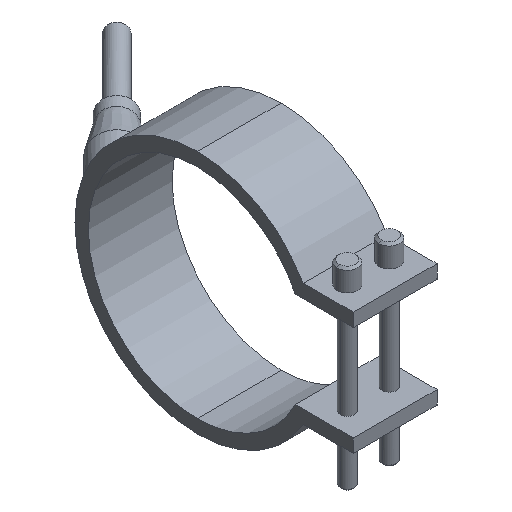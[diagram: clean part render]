
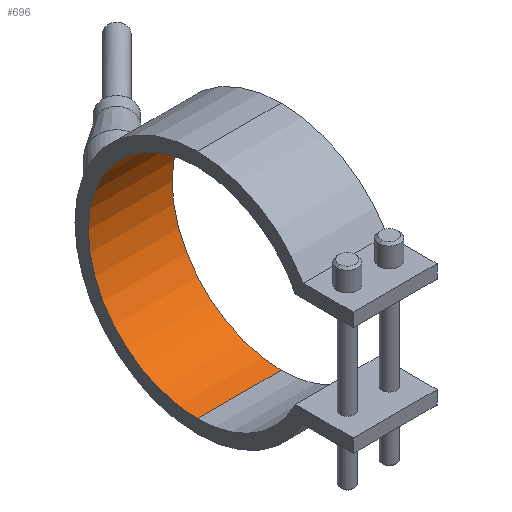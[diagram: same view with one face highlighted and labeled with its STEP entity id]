
A CAD part, isometric view. The second image highlights one B-rep face of the part: STEP entity #696.
In plain terms, the highlighted cylindrical face has radius 32.5 mm (diameter 65 mm), a partial arc.
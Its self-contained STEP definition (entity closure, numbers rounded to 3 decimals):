
#366=CARTESIAN_POINT('Vertex',(12.5,0.,32.5)) ;
#371=CARTESIAN_POINT('Axis2P3D Location',(12.5,0.,0.)) ;
#375=CARTESIAN_POINT('Vertex',(12.5,0.,-32.5)) ;
#482=CARTESIAN_POINT('Vertex',(-12.5,0.,-32.5)) ;
#485=CARTESIAN_POINT('Axis2P3D Location',(-12.5,0.,0.)) ;
#489=CARTESIAN_POINT('Vertex',(-12.5,0.,32.5)) ;
#668=CARTESIAN_POINT('Line Origine',(12.5,0.,32.5)) ;
#680=CARTESIAN_POINT('Axis2P3D Location',(12.5,0.,0.)) ;
#685=CARTESIAN_POINT('Line Origine',(12.5,0.,-32.5)) ;
#372=DIRECTION('Axis2P3D Direction',(1.,0.,0.)) ;
#486=DIRECTION('Axis2P3D Direction',(1.,0.,0.)) ;
#669=DIRECTION('Vector Direction',(1.,0.,0.)) ;
#681=DIRECTION('Axis2P3D Direction',(1.,0.,-0.)) ;
#682=DIRECTION('Axis2P3D XDirection',(0.,0.,-1.)) ;
#686=DIRECTION('Vector Direction',(1.,0.,0.)) ;
#373=AXIS2_PLACEMENT_3D('Circle Axis2P3D',#371,#372,$) ;
#487=AXIS2_PLACEMENT_3D('Circle Axis2P3D',#485,#486,$) ;
#683=AXIS2_PLACEMENT_3D('Cylinder Axis2P3D',#680,#681,#682) ;
#691=ORIENTED_EDGE('',*,*,#377,.T.) ;
#692=ORIENTED_EDGE('',*,*,#672,.T.) ;
#693=ORIENTED_EDGE('',*,*,#491,.F.) ;
#694=ORIENTED_EDGE('',*,*,#689,.T.) ;
#670=VECTOR('Line Direction',#669,1.) ;
#687=VECTOR('Line Direction',#686,1.) ;
#696=ADVANCED_FACE('29065025',(#695),#684,.F.) ;
#374=CIRCLE('generated circle',#373,32.5) ;
#488=CIRCLE('generated circle',#487,32.5) ;
#684=CYLINDRICAL_SURFACE('generated cylinder',#683,32.5) ;
#377=EDGE_CURVE('',#376,#367,#374,.T.) ;
#491=EDGE_CURVE('',#483,#490,#488,.T.) ;
#672=EDGE_CURVE('',#367,#490,#671,.F.) ;
#689=EDGE_CURVE('',#483,#376,#688,.T.) ;
#690=EDGE_LOOP('',(#691,#692,#693,#694)) ;
#695=FACE_OUTER_BOUND('',#690,.T.) ;
#671=LINE('Line',#668,#670) ;
#688=LINE('Line',#685,#687) ;
#367=VERTEX_POINT('',#366) ;
#376=VERTEX_POINT('',#375) ;
#483=VERTEX_POINT('',#482) ;
#490=VERTEX_POINT('',#489) ;
